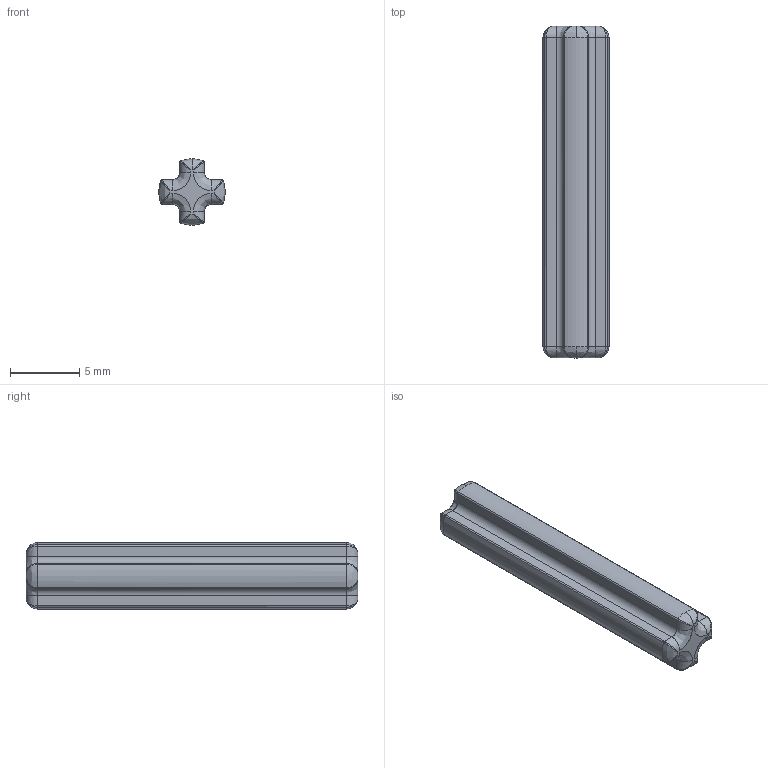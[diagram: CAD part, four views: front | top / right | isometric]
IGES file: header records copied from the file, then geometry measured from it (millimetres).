
Start section: C
Global section: file name: ClGray_4211815_JCA.iges; native system: By Siemens PLM Incorporated; preprocessor: XPlus GENERIC/IGES 26.1.183; author: Author; organization: Title; date: 20250721.235349; units: millimetre
Bounding box: 4.8 x 24 x 4.8 mm (x, y, z)
Surface area: 422.9 mm2 (no closed solid volume)
Topology: 0 solids, 0 shells, 77 faces, 338 edges, 322 vertices
Faces by surface type: bspline 77
